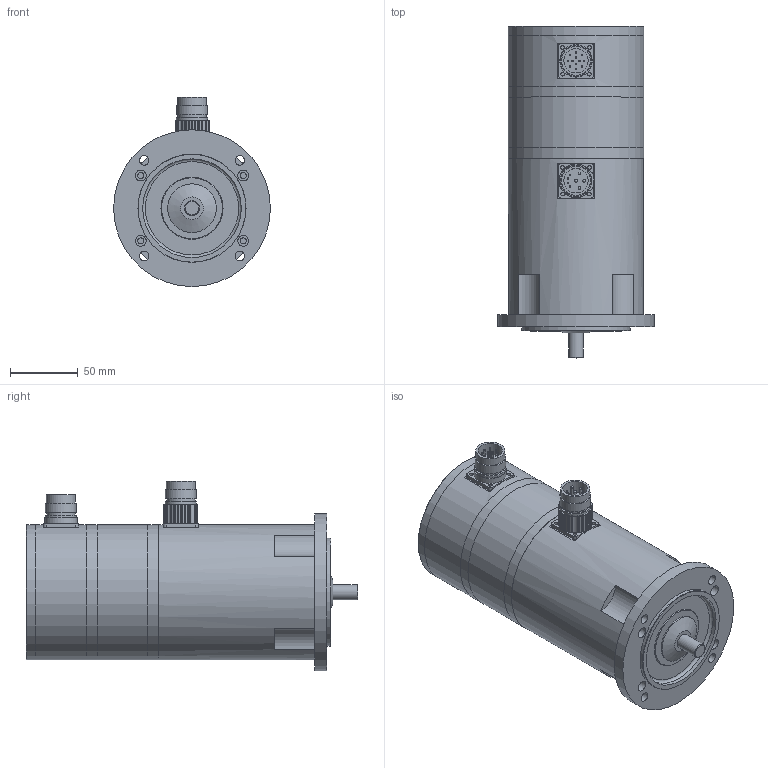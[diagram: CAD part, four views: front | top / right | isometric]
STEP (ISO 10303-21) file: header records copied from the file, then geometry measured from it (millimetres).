
FILE_DESCRIPTION(/* description */ (''),/* implementation_level */ '2;1');
FILE_NAME(/* name */ 'ksa_3x4e_mc_ixx',/* time_stamp */ '2007-03-13T10:56:27+01:00',/* author */ (''),/* organization */ (''),/* preprocessor_version */ 'ST-DEVELOPER v8',/* originating_system */ 'UNIGRAPHICS SOLUTIONS - UNIGRAPHICS 18.0',/* authorisation */ '');
FILE_SCHEMA (('AUTOMOTIVE_DESIGN { 1 2 10303 214 0 1 1 1 }'));
Length unit declared in the file: millimetre
Products named in the file (13): 014261_0; 064304_0; 089284_0; 113058_0; 089283_0; 113057_0; 014260_0; 06331101_0; DIN3760_org_A15x30x7_0; Rotor_SA 34.. E_0; Gehaeuse SA 34.. E_0; 113044_0; KSA328_E-MC-I27_0
Assembly tree (12 placements, depth 2):
  KSA328_E-MC-I27_0
    113044_0
    Gehaeuse SA 34.. E_0
    Rotor_SA 34.. E_0
    DIN3760_org_A15x30x7_0
    06331101_0
    014260_0
    113057_0
    089283_0
    113058_0
    089284_0
    064304_0
    014261_0
Bounding box: 116 x 245.5 x 140 mm (x, y, z)
Volume: 818664.2 mm3; surface area: 229458.8 mm2
Topology: 12 solids, 12 shells, 274 faces, 675 edges, 434 vertices
Faces by surface type: cylinder 149, plane 80, sphere 20, torus 15, cone 10
Full cylindrical faces by diameter (mm): 1 x16, 2 x4, 2.7 x8, 4.5 x4, 7 x4, 8 x4, 10.52 x1, 10.9 x1, 11 x1, 15 x2, 15.5 x1, 18 x2, 20 x4, 21 x2, 21.5 x2, 23 x4, 24 x1, 25 x1, 27 x1, 30 x3, 35 x1, 36 x1, 45 x1, 73 x1, 74 x1, 80 x3, 81 x2, 100 x6, 116 x1
Entity records: 7358 total; most frequent: DIRECTION 1370, CARTESIAN_POINT 1173, ORIENTED_EDGE 910, AXIS2_PLACEMENT_3D 630, EDGE_LOOP 482, EDGE_CURVE 455, VERTEX_POINT 365, CIRCLE 343
